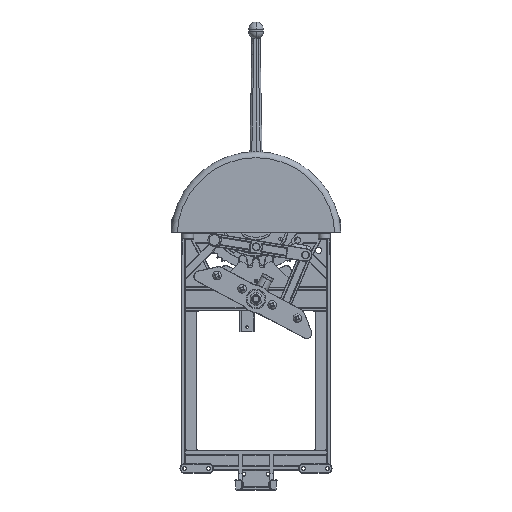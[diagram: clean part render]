
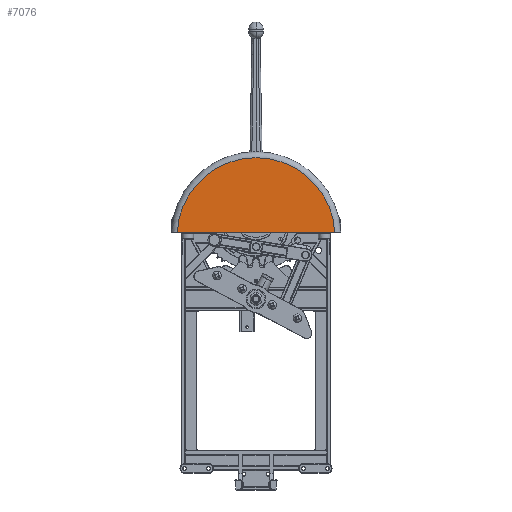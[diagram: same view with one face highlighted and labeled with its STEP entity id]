
A CAD part, top view. The second image highlights one B-rep face of the part: STEP entity #7076.
In plain terms, the highlighted planar face has unit normal (0, 0, 1).
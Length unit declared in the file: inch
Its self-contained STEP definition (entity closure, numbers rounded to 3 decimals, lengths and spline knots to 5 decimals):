
#1345 = CARTESIAN_POINT ( 'NONE',  ( 3.31619, -0.135, 1.6675 ) ) ;
#2029 = CARTESIAN_POINT ( 'NONE',  ( 0., -0.30558, 1.6675 ) ) ;
#7076 = ADVANCED_FACE ( 'NONE', ( #101271 ), #18858, .T. ) ;
#11334 = LINE ( 'NONE', #47981, #21948 ) ;
#18858 = PLANE ( 'NONE',  #116888 ) ;
#20396 = CARTESIAN_POINT ( 'NONE',  ( -3.31619, -0.135, 1.6675 ) ) ;
#21948 = VECTOR ( 'NONE', #84722, 39.37008 ) ;
#23102 = EDGE_CURVE ( 'NONE', #65108, #62050, #11334, .T. ) ;
#29069 = CARTESIAN_POINT ( 'NONE',  ( 0., -0.30558, 1.6675 ) ) ;
#29593 = ORIENTED_EDGE ( 'NONE', *, *, #96478, .T. ) ;
#38690 = DIRECTION ( 'NONE',  ( 0., 0., 1. ) ) ;
#44349 = EDGE_LOOP ( 'NONE', ( #85628, #29593 ) ) ;
#47981 = CARTESIAN_POINT ( 'NONE',  ( 3.5665, -0.135, 1.6675 ) ) ;
#48564 = CIRCLE ( 'NONE', #115868, 3.32058 ) ;
#62050 = VERTEX_POINT ( 'NONE', #20396 ) ;
#65108 = VERTEX_POINT ( 'NONE', #1345 ) ;
#65762 = DIRECTION ( 'NONE',  ( 0., 0., 1. ) ) ;
#75387 = DIRECTION ( 'NONE',  ( 1., 0., 0. ) ) ;
#84722 = DIRECTION ( 'NONE',  ( -1., 0., 0. ) ) ;
#85628 = ORIENTED_EDGE ( 'NONE', *, *, #23102, .F. ) ;
#96478 = EDGE_CURVE ( 'NONE', #65108, #62050, #48564, .T. ) ;
#101271 = FACE_OUTER_BOUND ( 'NONE', #44349, .T. ) ;
#102482 = DIRECTION ( 'NONE',  ( 1., 0., 0. ) ) ;
#115868 = AXIS2_PLACEMENT_3D ( 'NONE', #2029, #38690, #75387 ) ;
#116888 = AXIS2_PLACEMENT_3D ( 'NONE', #29069, #65762, #102482 ) ;
